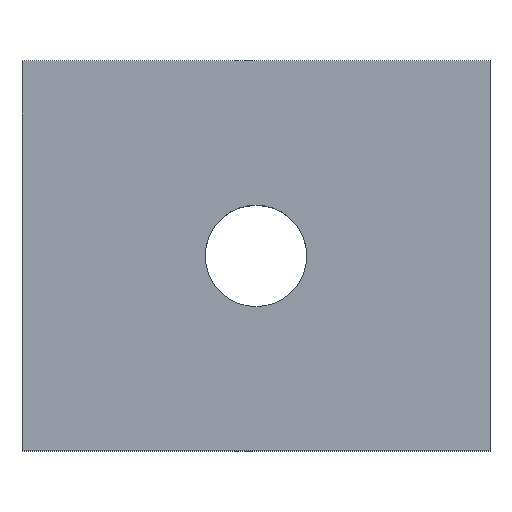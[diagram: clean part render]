
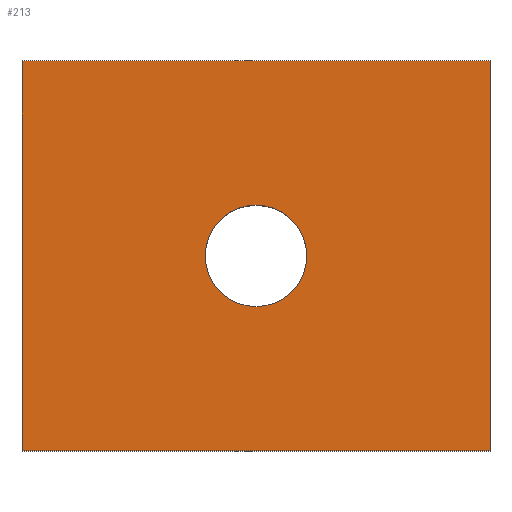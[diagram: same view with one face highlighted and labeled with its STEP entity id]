
A CAD part, top view. The second image highlights one B-rep face of the part: STEP entity #213.
In plain terms, the highlighted planar face has unit normal (0, 0, 1).
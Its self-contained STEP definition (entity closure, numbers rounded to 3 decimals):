
#24 = VERTEX_POINT('',#25);
#25 = CARTESIAN_POINT('',(0.,0.,4.));
#32 = PLANE('',#33);
#33 = AXIS2_PLACEMENT_3D('',#34,#35,#36);
#34 = CARTESIAN_POINT('',(0.,0.,0.));
#35 = DIRECTION('',(1.,0.,-0.));
#36 = DIRECTION('',(0.,0.,1.));
#44 = PLANE('',#45);
#45 = AXIS2_PLACEMENT_3D('',#46,#47,#48);
#46 = CARTESIAN_POINT('',(0.,0.,0.));
#47 = DIRECTION('',(-0.,1.,0.));
#48 = DIRECTION('',(0.,0.,1.));
#85 = VERTEX_POINT('',#86);
#86 = CARTESIAN_POINT('',(0.,10.,4.));
#100 = PLANE('',#101);
#101 = AXIS2_PLACEMENT_3D('',#102,#103,#104);
#102 = CARTESIAN_POINT('',(0.,10.,0.));
#103 = DIRECTION('',(-0.,1.,0.));
#104 = DIRECTION('',(0.,0.,1.));
#112 = EDGE_CURVE('',#24,#85,#113,.T.);
#113 = SURFACE_CURVE('',#114,(#118,#125),.PCURVE_S1.);
#114 = LINE('',#115,#116);
#115 = CARTESIAN_POINT('',(0.,0.,4.));
#116 = VECTOR('',#117,1.);
#117 = DIRECTION('',(-0.,1.,0.));
#118 = PCURVE('',#32,#119);
#119 = DEFINITIONAL_REPRESENTATION('',(#120),#124);
#120 = LINE('',#121,#122);
#121 = CARTESIAN_POINT('',(4.,0.));
#122 = VECTOR('',#123,1.);
#123 = DIRECTION('',(0.,-1.));
#124 = ( GEOMETRIC_REPRESENTATION_CONTEXT(2) 
PARAMETRIC_REPRESENTATION_CONTEXT() REPRESENTATION_CONTEXT('2D SPACE',''
  ) );
#125 = PCURVE('',#126,#131);
#126 = PLANE('',#127);
#127 = AXIS2_PLACEMENT_3D('',#128,#129,#130);
#128 = CARTESIAN_POINT('',(0.,0.,4.));
#129 = DIRECTION('',(0.,0.,1.));
#130 = DIRECTION('',(1.,0.,-0.));
#131 = DEFINITIONAL_REPRESENTATION('',(#132),#136);
#132 = LINE('',#133,#134);
#133 = CARTESIAN_POINT('',(0.,0.));
#134 = VECTOR('',#135,1.);
#135 = DIRECTION('',(0.,1.));
#136 = ( GEOMETRIC_REPRESENTATION_CONTEXT(2) 
PARAMETRIC_REPRESENTATION_CONTEXT() REPRESENTATION_CONTEXT('2D SPACE',''
  ) );
#165 = EDGE_CURVE('',#24,#166,#168,.T.);
#166 = VERTEX_POINT('',#167);
#167 = CARTESIAN_POINT('',(12.,0.,4.));
#168 = SURFACE_CURVE('',#169,(#173,#180),.PCURVE_S1.);
#169 = LINE('',#170,#171);
#170 = CARTESIAN_POINT('',(0.,0.,4.));
#171 = VECTOR('',#172,1.);
#172 = DIRECTION('',(1.,0.,-0.));
#173 = PCURVE('',#44,#174);
#174 = DEFINITIONAL_REPRESENTATION('',(#175),#179);
#175 = LINE('',#176,#177);
#176 = CARTESIAN_POINT('',(4.,0.));
#177 = VECTOR('',#178,1.);
#178 = DIRECTION('',(0.,1.));
#179 = ( GEOMETRIC_REPRESENTATION_CONTEXT(2) 
PARAMETRIC_REPRESENTATION_CONTEXT() REPRESENTATION_CONTEXT('2D SPACE',''
  ) );
#180 = PCURVE('',#126,#181);
#181 = DEFINITIONAL_REPRESENTATION('',(#182),#186);
#182 = LINE('',#183,#184);
#183 = CARTESIAN_POINT('',(0.,0.));
#184 = VECTOR('',#185,1.);
#185 = DIRECTION('',(1.,0.));
#186 = ( GEOMETRIC_REPRESENTATION_CONTEXT(2) 
PARAMETRIC_REPRESENTATION_CONTEXT() REPRESENTATION_CONTEXT('2D SPACE',''
  ) );
#202 = PLANE('',#203);
#203 = AXIS2_PLACEMENT_3D('',#204,#205,#206);
#204 = CARTESIAN_POINT('',(12.,0.,0.));
#205 = DIRECTION('',(1.,0.,-0.));
#206 = DIRECTION('',(0.,0.,1.));
#213 = ADVANCED_FACE('',(#214,#262),#126,.T.);
#214 = FACE_BOUND('',#215,.T.);
#215 = EDGE_LOOP('',(#216,#217,#218,#241));
#216 = ORIENTED_EDGE('',*,*,#112,.F.);
#217 = ORIENTED_EDGE('',*,*,#165,.T.);
#218 = ORIENTED_EDGE('',*,*,#219,.T.);
#219 = EDGE_CURVE('',#166,#220,#222,.T.);
#220 = VERTEX_POINT('',#221);
#221 = CARTESIAN_POINT('',(12.,10.,4.));
#222 = SURFACE_CURVE('',#223,(#227,#234),.PCURVE_S1.);
#223 = LINE('',#224,#225);
#224 = CARTESIAN_POINT('',(12.,0.,4.));
#225 = VECTOR('',#226,1.);
#226 = DIRECTION('',(-0.,1.,0.));
#227 = PCURVE('',#126,#228);
#228 = DEFINITIONAL_REPRESENTATION('',(#229),#233);
#229 = LINE('',#230,#231);
#230 = CARTESIAN_POINT('',(12.,0.));
#231 = VECTOR('',#232,1.);
#232 = DIRECTION('',(0.,1.));
#233 = ( GEOMETRIC_REPRESENTATION_CONTEXT(2) 
PARAMETRIC_REPRESENTATION_CONTEXT() REPRESENTATION_CONTEXT('2D SPACE',''
  ) );
#234 = PCURVE('',#202,#235);
#235 = DEFINITIONAL_REPRESENTATION('',(#236),#240);
#236 = LINE('',#237,#238);
#237 = CARTESIAN_POINT('',(4.,0.));
#238 = VECTOR('',#239,1.);
#239 = DIRECTION('',(0.,-1.));
#240 = ( GEOMETRIC_REPRESENTATION_CONTEXT(2) 
PARAMETRIC_REPRESENTATION_CONTEXT() REPRESENTATION_CONTEXT('2D SPACE',''
  ) );
#241 = ORIENTED_EDGE('',*,*,#242,.F.);
#242 = EDGE_CURVE('',#85,#220,#243,.T.);
#243 = SURFACE_CURVE('',#244,(#248,#255),.PCURVE_S1.);
#244 = LINE('',#245,#246);
#245 = CARTESIAN_POINT('',(0.,10.,4.));
#246 = VECTOR('',#247,1.);
#247 = DIRECTION('',(1.,0.,-0.));
#248 = PCURVE('',#126,#249);
#249 = DEFINITIONAL_REPRESENTATION('',(#250),#254);
#250 = LINE('',#251,#252);
#251 = CARTESIAN_POINT('',(0.,10.));
#252 = VECTOR('',#253,1.);
#253 = DIRECTION('',(1.,0.));
#254 = ( GEOMETRIC_REPRESENTATION_CONTEXT(2) 
PARAMETRIC_REPRESENTATION_CONTEXT() REPRESENTATION_CONTEXT('2D SPACE',''
  ) );
#255 = PCURVE('',#100,#256);
#256 = DEFINITIONAL_REPRESENTATION('',(#257),#261);
#257 = LINE('',#258,#259);
#258 = CARTESIAN_POINT('',(4.,0.));
#259 = VECTOR('',#260,1.);
#260 = DIRECTION('',(0.,1.));
#261 = ( GEOMETRIC_REPRESENTATION_CONTEXT(2) 
PARAMETRIC_REPRESENTATION_CONTEXT() REPRESENTATION_CONTEXT('2D SPACE',''
  ) );
#262 = FACE_BOUND('',#263,.T.);
#263 = EDGE_LOOP('',(#264));
#264 = ORIENTED_EDGE('',*,*,#265,.F.);
#265 = EDGE_CURVE('',#266,#266,#268,.T.);
#266 = VERTEX_POINT('',#267);
#267 = CARTESIAN_POINT('',(7.3,5.,4.));
#268 = SURFACE_CURVE('',#269,(#274,#281),.PCURVE_S1.);
#269 = CIRCLE('',#270,1.3);
#270 = AXIS2_PLACEMENT_3D('',#271,#272,#273);
#271 = CARTESIAN_POINT('',(6.,5.,4.));
#272 = DIRECTION('',(0.,0.,1.));
#273 = DIRECTION('',(1.,0.,-0.));
#274 = PCURVE('',#126,#275);
#275 = DEFINITIONAL_REPRESENTATION('',(#276),#280);
#276 = CIRCLE('',#277,1.3);
#277 = AXIS2_PLACEMENT_2D('',#278,#279);
#278 = CARTESIAN_POINT('',(6.,5.));
#279 = DIRECTION('',(1.,0.));
#280 = ( GEOMETRIC_REPRESENTATION_CONTEXT(2) 
PARAMETRIC_REPRESENTATION_CONTEXT() REPRESENTATION_CONTEXT('2D SPACE',''
  ) );
#281 = PCURVE('',#282,#287);
#282 = CYLINDRICAL_SURFACE('',#283,1.3);
#283 = AXIS2_PLACEMENT_3D('',#284,#285,#286);
#284 = CARTESIAN_POINT('',(6.,5.,-2.));
#285 = DIRECTION('',(0.,0.,1.));
#286 = DIRECTION('',(1.,0.,-0.));
#287 = DEFINITIONAL_REPRESENTATION('',(#288),#292);
#288 = LINE('',#289,#290);
#289 = CARTESIAN_POINT('',(0.,6.));
#290 = VECTOR('',#291,1.);
#291 = DIRECTION('',(1.,0.));
#292 = ( GEOMETRIC_REPRESENTATION_CONTEXT(2) 
PARAMETRIC_REPRESENTATION_CONTEXT() REPRESENTATION_CONTEXT('2D SPACE',''
  ) );
